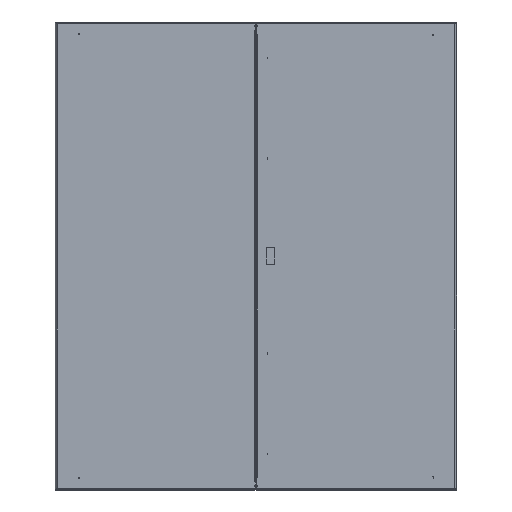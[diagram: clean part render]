
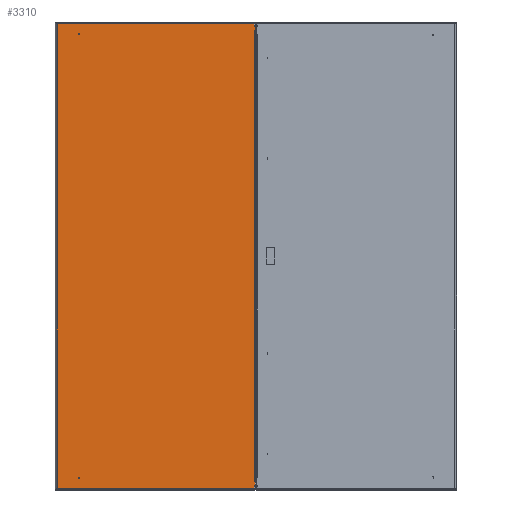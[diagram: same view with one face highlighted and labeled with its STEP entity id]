
A CAD part, top view. The second image highlights one B-rep face of the part: STEP entity #3310.
In plain terms, the highlighted planar face has unit normal (0, 0, 1).
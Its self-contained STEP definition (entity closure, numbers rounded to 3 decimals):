
#429 = ORIENTED_EDGE ( 'NONE', *, *, #18781, .F. ) ;
#732 = CARTESIAN_POINT ( 'NONE',  ( 295.15, 686.5, 1.35 ) ) ;
#928 = CARTESIAN_POINT ( 'NONE',  ( 297.5, -697.5, 1.35 ) ) ;
#977 = VERTEX_POINT ( 'NONE', #732 ) ;
#1258 = VECTOR ( 'NONE', #14514, 1000. ) ;
#1460 = FACE_OUTER_BOUND ( 'NONE', #21115, .T. ) ;
#1462 = DIRECTION ( 'NONE',  ( 0., 1., 0. ) ) ;
#1581 = VERTEX_POINT ( 'NONE', #13386 ) ;
#2120 = DIRECTION ( 'NONE',  ( -1., 0., 0. ) ) ;
#2194 = EDGE_CURVE ( 'NONE', #8111, #13208, #29038, .T. ) ;
#2244 = VECTOR ( 'NONE', #3171, 1000. ) ;
#2359 = CARTESIAN_POINT ( 'NONE',  ( 297.5, 695.15, 1.35 ) ) ;
#2613 = CARTESIAN_POINT ( 'NONE',  ( 295.15, -686.5, 1.35 ) ) ;
#2949 = DIRECTION ( 'NONE',  ( 0., 1., 0. ) ) ;
#3165 = ORIENTED_EDGE ( 'NONE', *, *, #18482, .T. ) ;
#3171 = DIRECTION ( 'NONE',  ( 0., 1., 0. ) ) ;
#3310 = ADVANCED_FACE ( 'OUT_FRONT_CB', ( #1460 ), #18059, .F. ) ;
#3647 = CARTESIAN_POINT ( 'NONE',  ( 295.15, -695.15, 1.35 ) ) ;
#3748 = ORIENTED_EDGE ( 'NONE', *, *, #8913, .T. ) ;
#4152 = EDGE_CURVE ( 'NONE', #11192, #13208, #27019, .T. ) ;
#4232 = ORIENTED_EDGE ( 'NONE', *, *, #2194, .F. ) ;
#4518 = CARTESIAN_POINT ( 'NONE',  ( 295.15, -675.25, 1.35 ) ) ;
#4659 = VECTOR ( 'NONE', #19744, 1000. ) ;
#4692 = LINE ( 'NONE', #2359, #16335 ) ;
#4706 = VERTEX_POINT ( 'NONE', #3647 ) ;
#4767 = AXIS2_PLACEMENT_3D ( 'NONE', #8370, #27555, #6162 ) ;
#4792 = LINE ( 'NONE', #9527, #1258 ) ;
#5114 = ORIENTED_EDGE ( 'NONE', *, *, #6466, .F. ) ;
#6162 = DIRECTION ( 'NONE',  ( -1., 0., 0. ) ) ;
#6466 = EDGE_CURVE ( 'NONE', #19931, #10044, #6498, .T. ) ;
#6498 = LINE ( 'NONE', #13388, #8604 ) ;
#7486 = CARTESIAN_POINT ( 'NONE',  ( 295.15, 675.25, 1.35 ) ) ;
#8057 = LINE ( 'NONE', #15859, #18939 ) ;
#8111 = VERTEX_POINT ( 'NONE', #4518 ) ;
#8269 = CARTESIAN_POINT ( 'NONE',  ( 295.15, 686.5, 1.35 ) ) ;
#8322 = VECTOR ( 'NONE', #2949, 1000. ) ;
#8370 = CARTESIAN_POINT ( 'NONE',  ( 297.5, 697.5, 1.35 ) ) ;
#8464 = CARTESIAN_POINT ( 'NONE',  ( -295.15, 695.15, 1.35 ) ) ;
#8584 = CARTESIAN_POINT ( 'NONE',  ( 297.5, 686.5, 1.35 ) ) ;
#8604 = VECTOR ( 'NONE', #30099, 1000. ) ;
#8913 = EDGE_CURVE ( 'NONE', #22861, #14548, #28192, .T. ) ;
#8999 = LINE ( 'NONE', #28027, #4659 ) ;
#9117 = CARTESIAN_POINT ( 'NONE',  ( 297.5, -675.25, 1.35 ) ) ;
#9237 = ORIENTED_EDGE ( 'NONE', *, *, #23586, .T. ) ;
#9527 = CARTESIAN_POINT ( 'NONE',  ( -296.115, -695.15, 1.35 ) ) ;
#9734 = DIRECTION ( 'NONE',  ( -1., 0., 0. ) ) ;
#10044 = VERTEX_POINT ( 'NONE', #7486 ) ;
#10785 = DIRECTION ( 'NONE',  ( 0., 1., 0. ) ) ;
#11192 = VERTEX_POINT ( 'NONE', #28811 ) ;
#11322 = CARTESIAN_POINT ( 'NONE',  ( 297.5, 675.25, 1.35 ) ) ;
#11464 = DIRECTION ( 'NONE',  ( 1., 0., 0. ) ) ;
#12516 = EDGE_CURVE ( 'NONE', #4706, #13419, #16518, .T. ) ;
#12965 = LINE ( 'NONE', #8269, #28763 ) ;
#13208 = VERTEX_POINT ( 'NONE', #25152 ) ;
#13386 = CARTESIAN_POINT ( 'NONE',  ( 295.15, 695.15, 1.35 ) ) ;
#13388 = CARTESIAN_POINT ( 'NONE',  ( 297.5, 675.25, 1.35 ) ) ;
#13419 = VERTEX_POINT ( 'NONE', #2613 ) ;
#13515 = ORIENTED_EDGE ( 'NONE', *, *, #20980, .F. ) ;
#13687 = VERTEX_POINT ( 'NONE', #8584 ) ;
#14514 = DIRECTION ( 'NONE',  ( 1., 0., 0. ) ) ;
#14548 = VERTEX_POINT ( 'NONE', #23197 ) ;
#14839 = ORIENTED_EDGE ( 'NONE', *, *, #12516, .T. ) ;
#15859 = CARTESIAN_POINT ( 'NONE',  ( 297.5, -697.5, 1.35 ) ) ;
#16335 = VECTOR ( 'NONE', #9734, 1000. ) ;
#16518 = LINE ( 'NONE', #28540, #19196 ) ;
#17287 = LINE ( 'NONE', #28837, #2244 ) ;
#17596 = ORIENTED_EDGE ( 'NONE', *, *, #24342, .T. ) ;
#18059 = PLANE ( 'NONE',  #4767 ) ;
#18482 = EDGE_CURVE ( 'NONE', #8111, #10044, #17287, .T. ) ;
#18781 = EDGE_CURVE ( 'NONE', #977, #13687, #8999, .T. ) ;
#18939 = VECTOR ( 'NONE', #1462, 1000. ) ;
#19120 = VECTOR ( 'NONE', #2120, 1000. ) ;
#19196 = VECTOR ( 'NONE', #28081, 1000. ) ;
#19744 = DIRECTION ( 'NONE',  ( 1., 0., 0. ) ) ;
#19931 = VERTEX_POINT ( 'NONE', #11322 ) ;
#20581 = ORIENTED_EDGE ( 'NONE', *, *, #30280, .T. ) ;
#20980 = EDGE_CURVE ( 'NONE', #11192, #13419, #23268, .T. ) ;
#21063 = ORIENTED_EDGE ( 'NONE', *, *, #4152, .T. ) ;
#21115 = EDGE_LOOP ( 'NONE', ( #14839, #13515, #21063, #4232, #3165, #5114, #20581, #429, #17596, #9237, #3748, #30644 ) ) ;
#22861 = VERTEX_POINT ( 'NONE', #8464 ) ;
#23197 = CARTESIAN_POINT ( 'NONE',  ( -295.15, -695.15, 1.35 ) ) ;
#23268 = LINE ( 'NONE', #28082, #19120 ) ;
#23517 = DIRECTION ( 'NONE',  ( 0., -1., 0. ) ) ;
#23586 = EDGE_CURVE ( 'NONE', #1581, #22861, #4692, .T. ) ;
#24342 = EDGE_CURVE ( 'NONE', #977, #1581, #12965, .T. ) ;
#25152 = CARTESIAN_POINT ( 'NONE',  ( 297.5, -675.25, 1.35 ) ) ;
#25540 = CARTESIAN_POINT ( 'NONE',  ( -295.15, 696.115, 1.35 ) ) ;
#26206 = VECTOR ( 'NONE', #11464, 1000. ) ;
#27019 = LINE ( 'NONE', #928, #8322 ) ;
#27555 = DIRECTION ( 'NONE',  ( 0., 0., -1. ) ) ;
#28027 = CARTESIAN_POINT ( 'NONE',  ( 297.5, 686.5, 1.35 ) ) ;
#28081 = DIRECTION ( 'NONE',  ( 0., 1., 0. ) ) ;
#28082 = CARTESIAN_POINT ( 'NONE',  ( 297.5, -686.5, 1.35 ) ) ;
#28192 = LINE ( 'NONE', #25540, #29079 ) ;
#28540 = CARTESIAN_POINT ( 'NONE',  ( 295.15, -695.15, 1.35 ) ) ;
#28763 = VECTOR ( 'NONE', #10785, 1000. ) ;
#28811 = CARTESIAN_POINT ( 'NONE',  ( 297.5, -686.5, 1.35 ) ) ;
#28837 = CARTESIAN_POINT ( 'NONE',  ( 295.15, -675.25, 1.35 ) ) ;
#29038 = LINE ( 'NONE', #9117, #26206 ) ;
#29079 = VECTOR ( 'NONE', #23517, 1000. ) ;
#29528 = EDGE_CURVE ( 'NONE', #14548, #4706, #4792, .T. ) ;
#30099 = DIRECTION ( 'NONE',  ( -1., 0., 0. ) ) ;
#30280 = EDGE_CURVE ( 'NONE', #19931, #13687, #8057, .T. ) ;
#30644 = ORIENTED_EDGE ( 'NONE', *, *, #29528, .T. ) ;
